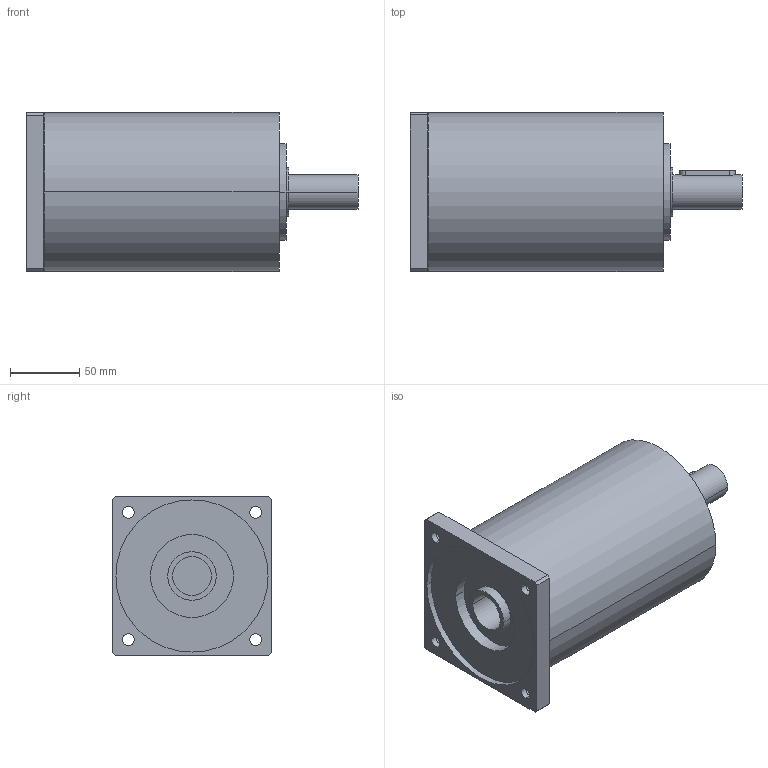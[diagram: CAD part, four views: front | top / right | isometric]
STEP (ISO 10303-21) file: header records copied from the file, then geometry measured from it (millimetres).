
FILE_DESCRIPTION(('CoCreate Modeling STEP Export'),'2;1');
FILE_NAME('GPR125_ig-9-12-16-20-28-35_25_B14_28_P07.stp','2014-08-26T14:11:36',(''),(''),'CoCreate Modeling STEP processor for AP214 (Solid Model)','CoCreate Modeling 16.00C 25-Feb-2009 (C) Parametric Technology GmbH','');
FILE_SCHEMA(('AUTOMOTIVE_DESIGN { 1 0 10303 214 1 1 1 1 }'));
Length unit declared in the file: millimetre
Products named in the file (2): GPR125_ig-9-12-16-20-28-35_25_B14_28_P07
Assembly tree (1 placements, depth 2):
  GPR125_ig-9-12-16-20-28-35_25_B14_28_P07
    GPR125_ig-9-12-16-20-28-35_25_B14_28_P07
Bounding box: 240 x 115 x 115 mm (x, y, z)
Volume: 1878674.1 mm3; surface area: 112455.1 mm2
Topology: 1 solids, 1 shells, 77 faces, 212 edges, 152 vertices
Faces by surface type: cylinder 48, plane 25, cone 4
Entity records: 2153 total; most frequent: ORIENTED_EDGE 420, CARTESIAN_POINT 399, DIRECTION 288, EDGE_CURVE 210, VERTEX_POINT 152, AXIS2_PLACEMENT_3D 109, EDGE_LOOP 102, FACE_OUTER_BOUND 77
